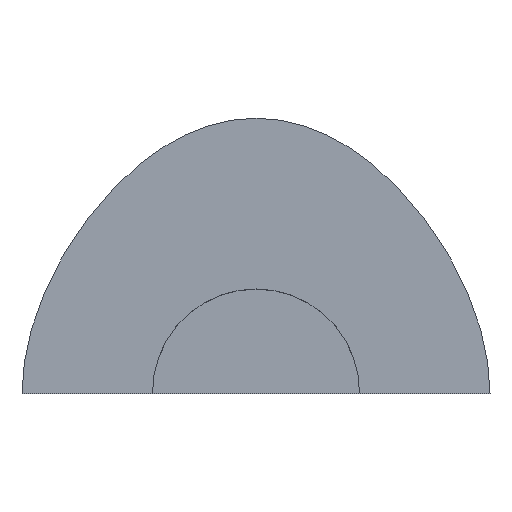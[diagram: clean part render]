
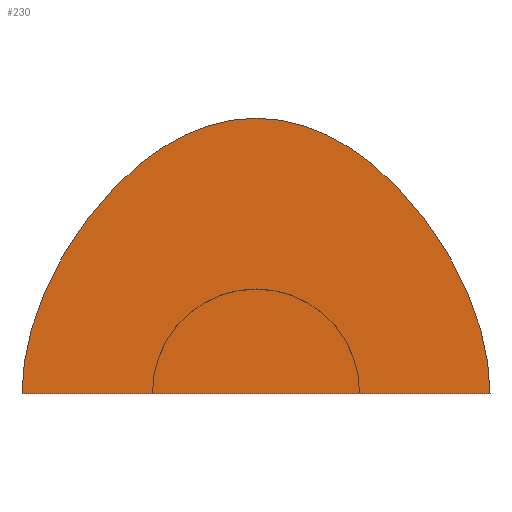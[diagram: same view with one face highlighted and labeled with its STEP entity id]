
A CAD part, top view. The second image highlights one B-rep face of the part: STEP entity #230.
In plain terms, the highlighted planar face has unit normal (0, 0, 1).
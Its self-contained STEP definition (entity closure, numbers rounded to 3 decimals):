
#193=CARTESIAN_POINT('Axis2P3D Location',(0.,54.005,0.)) ;
#198=CARTESIAN_POINT('Line Origine',(0.,0.,0.)) ;
#202=CARTESIAN_POINT('Vertex',(-113.,0.,0.)) ;
#204=CARTESIAN_POINT('Vertex',(113.,0.,0.)) ;
#208=CARTESIAN_POINT('Control Point',(0.,133.,0.)) ;
#209=CARTESIAN_POINT('Control Point',(34.904,133.,0.)) ;
#210=CARTESIAN_POINT('Control Point',(67.517,112.839,0.)) ;
#211=CARTESIAN_POINT('Control Point',(97.839,72.517,0.)) ;
#212=CARTESIAN_POINT('Control Point',(113.,34.904,0.)) ;
#213=CARTESIAN_POINT('Control Point',(113.,0.,0.)) ;
#214=CARTESIAN_POINT('Vertex',(0.,133.,0.)) ;
#218=CARTESIAN_POINT('Control Point',(0.,133.,0.)) ;
#219=CARTESIAN_POINT('Control Point',(-34.904,133.,0.)) ;
#220=CARTESIAN_POINT('Control Point',(-67.517,112.839,0.)) ;
#221=CARTESIAN_POINT('Control Point',(-97.839,72.517,0.)) ;
#222=CARTESIAN_POINT('Control Point',(-113.,34.904,0.)) ;
#223=CARTESIAN_POINT('Control Point',(-113.,0.,0.)) ;
#194=DIRECTION('Axis2P3D Direction',(0.,0.,1.)) ;
#195=DIRECTION('Axis2P3D XDirection',(1.,0.,0.)) ;
#199=DIRECTION('Vector Direction',(1.,0.,0.)) ;
#196=AXIS2_PLACEMENT_3D('Plane Axis2P3D',#193,#194,#195) ;
#226=ORIENTED_EDGE('',*,*,#206,.T.) ;
#227=ORIENTED_EDGE('',*,*,#216,.T.) ;
#228=ORIENTED_EDGE('',*,*,#224,.T.) ;
#200=VECTOR('Line Direction',#199,1.) ;
#230=ADVANCED_FACE('Fill.1',(#229),#197,.T.) ;
#207=B_SPLINE_CURVE_WITH_KNOTS('',5,(#208,#209,#210,#211,#212,#213),.UNSPECIFIED.,.F.,.U.,(6,6),(0.,174.522),.UNSPECIFIED.) ;
#217=B_SPLINE_CURVE_WITH_KNOTS('',5,(#218,#219,#220,#221,#222,#223),.UNSPECIFIED.,.F.,.U.,(6,6),(0.,174.522),.UNSPECIFIED.) ;
#206=EDGE_CURVE('',#203,#205,#201,.T.) ;
#216=EDGE_CURVE('',#205,#215,#207,.F.) ;
#224=EDGE_CURVE('',#215,#203,#217,.T.) ;
#225=EDGE_LOOP('',(#226,#227,#228)) ;
#229=FACE_OUTER_BOUND('',#225,.T.) ;
#201=LINE('Line',#198,#200) ;
#197=PLANE('',#196) ;
#203=VERTEX_POINT('',#202) ;
#205=VERTEX_POINT('',#204) ;
#215=VERTEX_POINT('',#214) ;
